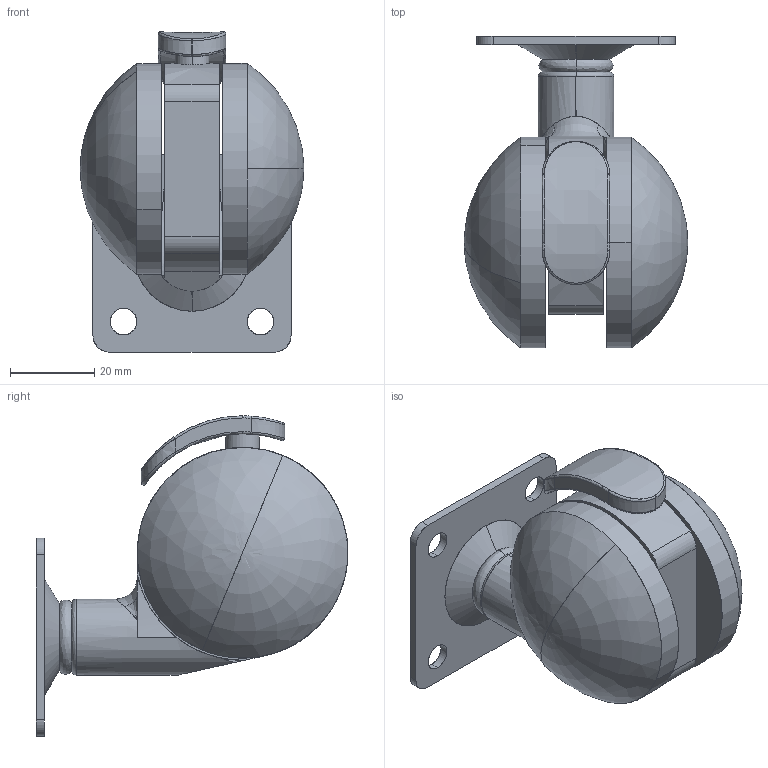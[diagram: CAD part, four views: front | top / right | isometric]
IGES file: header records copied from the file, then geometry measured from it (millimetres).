
Start section: SolidWorks IGES file using analytic representation for surfaces
Bounding box: 53 x 74 x 76 mm (x, y, z)
Surface area: 24540.8 mm2 (no closed solid volume)
Topology: 0 solids, 0 shells, 89 faces, 1492 edges, 1488 vertices
Faces by surface type: revolution 45, bspline 44
